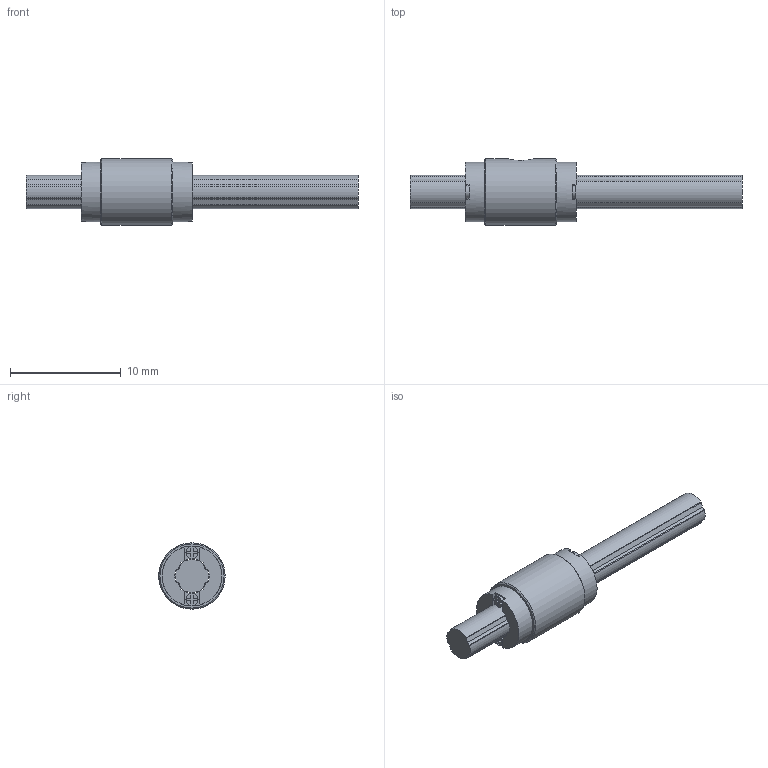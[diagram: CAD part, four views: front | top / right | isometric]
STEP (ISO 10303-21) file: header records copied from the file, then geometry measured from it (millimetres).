
FILE_DESCRIPTION(/* description */ ('STEP AP214'),/* implementation_level */ '2;1');
FILE_NAME(/* name */ 'LT3X+30L(00)',/* time_stamp */ '2024-09-05T13:53:08+02:00',/* author */ ('License CC BY-ND 4.0'),/* organization */ ('CADENAS'),/* preprocessor_version */ 'ST-DEVELOPER v19.3',/* originating_system */ 'PARTsolutions',/* authorisation */ ' ');
FILE_SCHEMA (('AUTOMOTIVE_DESIGN {1 0 10303 214 3 1 1}'));
Length unit declared in the file: millimetre
Products named in the file (3): LT3X+30L(00); 1LT3X 30Shaft; 1LT3X Cylindar
Assembly tree (2 placements, depth 2):
  LT3X+30L(00)
    1LT3X 30Shaft
    1LT3X Cylindar
Bounding box: 30 x 6 x 6 mm (x, y, z)
Volume: 392.9 mm3; surface area: 627.5 mm2
Topology: 2 solids, 2 shells, 122 faces, 329 edges, 219 vertices
Faces by surface type: plane 84, cylinder 35, cone 3
Full cylindrical faces by diameter (mm): 1.1 x4, 5.4 x2, 6 x1
Entity records: 3840 total; most frequent: CARTESIAN_POINT 670, DIRECTION 650, ORIENTED_EDGE 630, EDGE_CURVE 315, LINE 228, VECTOR 228, VERTEX_POINT 216, AXIS2_PLACEMENT_3D 211
